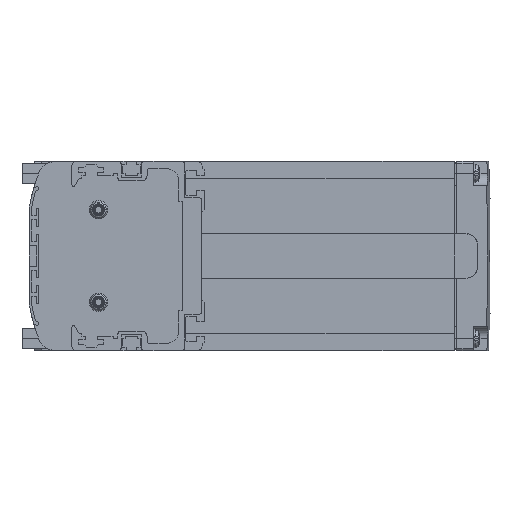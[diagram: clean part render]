
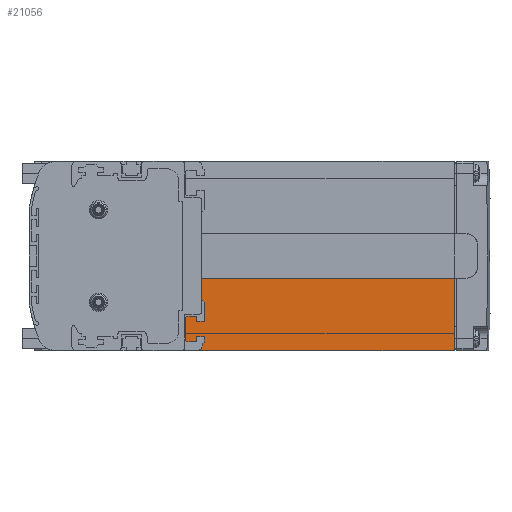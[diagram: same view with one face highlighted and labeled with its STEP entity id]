
A CAD part, left-side view. The second image highlights one B-rep face of the part: STEP entity #21056.
In plain terms, the highlighted planar face has unit normal (-1, 0, 0).
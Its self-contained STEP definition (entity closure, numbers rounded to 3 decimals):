
#247=DIRECTION('',(0.,0.,1.));
#248=VECTOR('',#247,29.9);
#249=CARTESIAN_POINT('',(3.,-103.,-39.));
#250=LINE('',#249,#248);
#493=DIRECTION('',(0.,1.,0.));
#494=VECTOR('',#493,112.);
#495=CARTESIAN_POINT('',(3.,-103.,-39.));
#496=LINE('',#495,#494);
#2845=DIRECTION('',(0.,0.,1.));
#2846=VECTOR('',#2845,13.9);
#2847=CARTESIAN_POINT('',(3.,1.,-23.));
#2848=LINE('',#2847,#2846);
#4622=DIRECTION('',(0.,1.,0.));
#4623=VECTOR('',#4622,104.);
#4624=CARTESIAN_POINT('',(3.,-103.,-9.1));
#4625=LINE('',#4624,#4623);
#12697=CARTESIAN_POINT('',(3.,2.,-23.));
#12698=DIRECTION('',(-1.,0.,0.));
#12699=DIRECTION('',(0.,0.,-1.));
#12700=AXIS2_PLACEMENT_3D('',#12697,#12698,#12699);
#12710=DIRECTION('',(0.,1.,0.));
#12711=VECTOR('',#12710,6.);
#12712=CARTESIAN_POINT('',(3.,2.,-24.));
#12713=LINE('',#12712,#12711);
#12714=DIRECTION('',(0.,0.,-1.));
#12715=VECTOR('',#12714,14.);
#12716=CARTESIAN_POINT('',(3.,8.,-24.));
#12717=LINE('',#12716,#12715);
#12722=CARTESIAN_POINT('',(3.,9.,-38.));
#12723=DIRECTION('',(-1.,0.,0.));
#12724=DIRECTION('',(0.,0.,-1.));
#12725=AXIS2_PLACEMENT_3D('',#12722,#12723,#12724);
#16698=CARTESIAN_POINT('',(3.,-103.,-39.));
#16699=VERTEX_POINT('',#16698);
#16700=CARTESIAN_POINT('',(3.,-103.,-9.1));
#16701=VERTEX_POINT('',#16700);
#20086=CARTESIAN_POINT('',(3.,1.,-23.));
#20087=CARTESIAN_POINT('',(3.,1.,-9.1));
#20088=VERTEX_POINT('',#20086);
#20089=VERTEX_POINT('',#20087);
#20134=CARTESIAN_POINT('',(3.,2.,-24.));
#20135=VERTEX_POINT('',#20134);
#20136=CARTESIAN_POINT('',(3.,8.,-24.));
#20137=VERTEX_POINT('',#20136);
#20138=CARTESIAN_POINT('',(3.,8.,-38.));
#20139=VERTEX_POINT('',#20138);
#20140=CARTESIAN_POINT('',(3.,9.,-39.));
#20141=VERTEX_POINT('',#20140);
#21034=CARTESIAN_POINT('',(3.,48.25,0.));
#21035=DIRECTION('',(1.,0.,0.));
#21036=DIRECTION('',(0.,1.,0.));
#21037=AXIS2_PLACEMENT_3D('',#21034,#21035,#21036);
#21038=PLANE('',#21037);
#21040=ORIENTED_EDGE('',*,*,#21039,.T.);
#21042=ORIENTED_EDGE('',*,*,#21041,.F.);
#21043=ORIENTED_EDGE('',*,*,#20588,.F.);
#21045=ORIENTED_EDGE('',*,*,#21044,.T.);
#21047=ORIENTED_EDGE('',*,*,#21046,.T.);
#21049=ORIENTED_EDGE('',*,*,#21048,.F.);
#21051=ORIENTED_EDGE('',*,*,#21050,.F.);
#21053=ORIENTED_EDGE('',*,*,#21052,.T.);
#21054=EDGE_LOOP('',(#21040,#21042,#21043,#21045,#21047,#21049,#21051,#21053));
#21055=FACE_OUTER_BOUND('',#21054,.F.);
#21056=ADVANCED_FACE('',(#21055),#21038,.F.);
#12701=CIRCLE('',#12700,1.);
#12726=CIRCLE('',#12725,1.);
#20588=EDGE_CURVE('',#16699,#16701,#250,.T.);
#21039=EDGE_CURVE('',#20088,#20089,#2848,.T.);
#21041=EDGE_CURVE('',#16701,#20089,#4625,.T.);
#21044=EDGE_CURVE('',#16699,#20141,#496,.T.);
#21046=EDGE_CURVE('',#20141,#20139,#12726,.T.);
#21048=EDGE_CURVE('',#20137,#20139,#12717,.T.);
#21050=EDGE_CURVE('',#20135,#20137,#12713,.T.);
#21052=EDGE_CURVE('',#20135,#20088,#12701,.T.);
